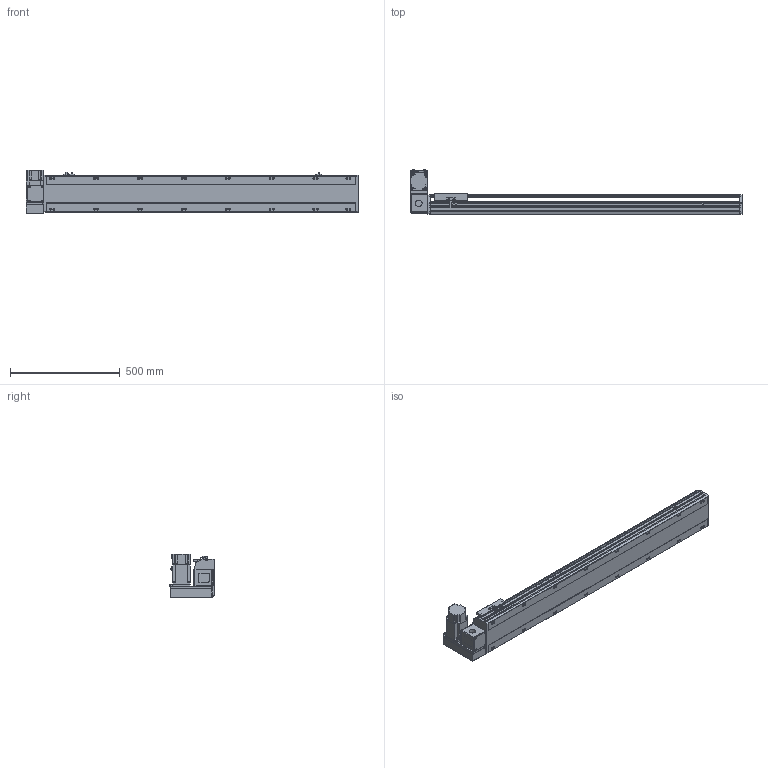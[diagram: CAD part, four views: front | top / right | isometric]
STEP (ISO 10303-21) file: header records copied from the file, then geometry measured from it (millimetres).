
FILE_DESCRIPTION( ( 'STEP AP214' ), '1' );
FILE_NAME( 'x:/temp/worker_4/temp/exporttempdir_2248_398_oP4TJ/format_0/PBS170-P40-S1150-LU-T75-C1-N(0).stp', '2022-06-07T08:15:27', ( 'License CC BY-ND 4.0' ), ( 'CADENAS' ), ' ', 'PARTsolutions', ' ' );
FILE_SCHEMA( ( 'AUTOMOTIVE_DESIGN { 1 0 10303 214 1 1 1 1 }' ) );
Length unit declared in the file: millimetre
Products named in the file (7): PBS170-P40-S1150-LU-T75-C1-N(0); _PBS170-S1150()_body; _PBS170T-LU_motors; _T75-p1; _PBS170_sliser; _PBS170_plant; _PBS170_sensor
Assembly tree (8 placements, depth 2):
  PBS170-P40-S1150-LU-T75-C1-N(0)
    _PBS170-S1150()_body
    _PBS170T-LU_motors
    _T75-p1
    _PBS170_sliser
    _PBS170_plant
    _PBS170_sensor  x3
Bounding box: 1513 x 206 x 197.3 mm (x, y, z)
Volume: 12059799.7 mm3; surface area: 1568894.4 mm2
Topology: 8 solids, 8 shells, 1082 faces, 2875 edges, 1874 vertices
Faces by surface type: plane 687, cylinder 339, cone 46, sphere 8, torus 2
Full cylindrical faces by diameter (mm): 3.242 x4, 4 x2, 4.4 x4, 4.5 x6, 4.917 x4, 6 x9, 6.647 x24, 7 x2, 7.5 x4, 8 x8, 8.5 x16, 10 x4, 10.5 x16, 11 x2, 30 x2, 40 x1, 70 x1
Entity records: 39740 total; most frequent: CARTESIAN_POINT 6221, DIRECTION 5300, ORIENTED_EDGE 5028, EDGE_CURVE 2514, AXIS2_PLACEMENT_3D 1837, VERTEX_POINT 1730, LINE 1626, VECTOR 1626
